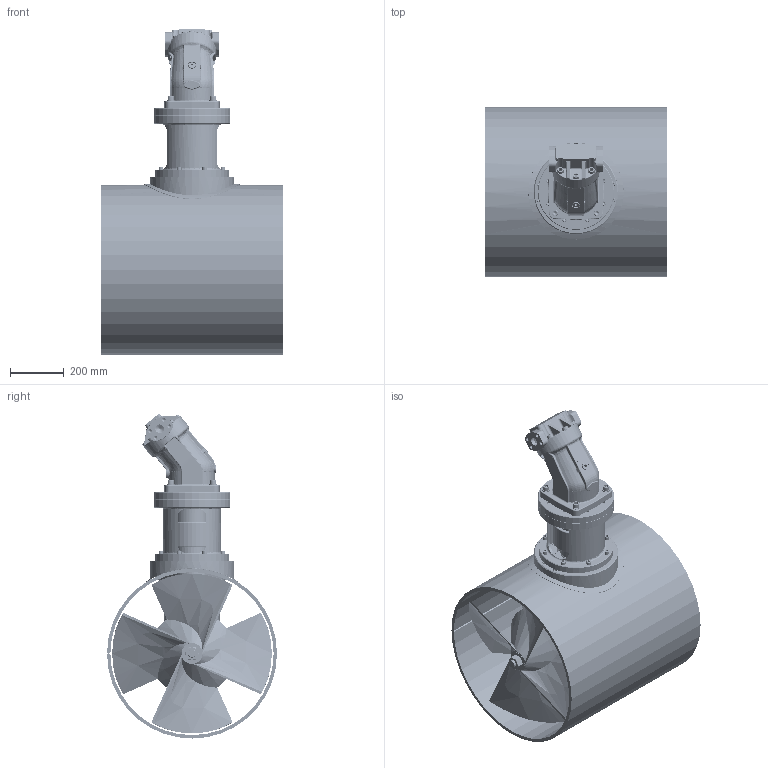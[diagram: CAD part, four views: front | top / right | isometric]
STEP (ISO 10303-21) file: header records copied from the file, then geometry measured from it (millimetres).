
FILE_DESCRIPTION(/* description */ (''),/* implementation_level */ '2;1');
FILE_NAME(/* name */ 'Q:\THRUSTERS\THRUSTER SALES & SUPPORT DOCS\THRUSTER Sales\H-T\H-0600-T\H-0600-T.stp',/* time_stamp */ '2020-03-04T15:39:36+00:00',/* author */ ('Jordan.Griffith'),/* organization */ (''),/* preprocessor_version */ 'ST-DEVELOPER v17',/* originating_system */ 'Autodesk Inventor 2019',/* authorisation */ '');
FILE_SCHEMA (('AUTOMOTIVE_DESIGN { 1 0 10303 214 3 1 1 }'));
Products named in the file (1): H-0600-T_Shrinkwrap_1
Bounding box: 681 x 634.99 x 1214.28 mm (x, y, z)
Volume: 60639216.6 mm3; surface area: 7699637.5 mm2
Topology: 71 solids, 71 shells, 6433 faces, 17652 edges, 11630 vertices
Faces by surface type: plane 3461, cylinder 1384, bspline 666, torus 395, cone 339, sphere 188
Full cylindrical faces by diameter (mm): 2 x4, 4 x2, 5 x10, 6 x4, 6.3 x2, 6.5 x8, 6.75 x8, 7 x2, 8.38 x1, 8.5 x4, 10 x4, 10.25 x36, 12 x36, 12.4 x16, 12.5 x56, 12.8 x16, 13.376 x1, 16 x5, 16.5 x8, 17 x1, 17.5 x8, 18 x28, 18.25 x2, 18.5 x16, 19 x28, 20 x1, 22 x1, 24 x10, 26 x6, 27 x1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
Entity records: 260189 total; most frequent: CARTESIAN_POINT 92334, ORIENTED_EDGE 35040, DIRECTION 32130, EDGE_CURVE 17520, VERTEX_POINT 11632, AXIS2_PLACEMENT_3D 11084, LINE 9962, VECTOR 9962
